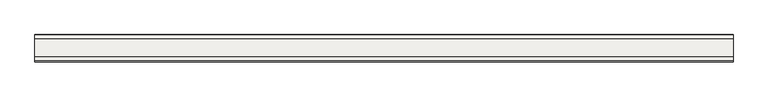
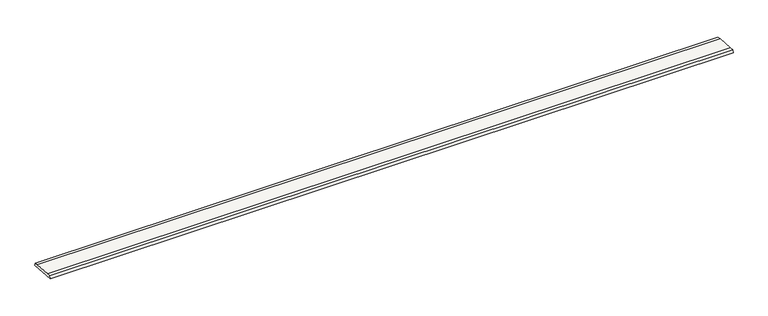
"""IFC4 building model written with IfcOpenShell, lengths in millimetres: slab geometry, ROSA GRES_245 FL : Rejilla 245 FL_Tresor_Java_Anti-Slip."""

from ifc_helpers import new_model, si_unit, point, frame, frame_2d, origin, place, context, project, spatial, polyline, circle_curve, trimmed, segment, composite_curve, outline, extrude, source, transform, mapped, element, save


def slab_b4f2f54f(model_context):
    return source(origin(), model_context, "Body", "SweptSolid", [
        extrude(outline(composite_curve([segment(trimmed(circle_curve(frame_2d((-528.960151, -476.9354905)), 721.556477), [point((-549.5004127, 244.3285715))], [point((-513.9321982, 244.464475))], False, "CARTESIAN"), True, "CONTINUOUS"), segment(polyline([(-513.9321982, 244.464475), (-350.5656678, 231.1671992)]), True, "CONTINUOUS"), segment(trimmed(circle_curve(frame_2d((-452.3998099, -483.1671462)), 721.556477), [point((-350.5656678, 231.1671992))], [point((-315.0453746, 225.1954084))], False, "CARTESIAN"), True, "CONTINUOUS"), segment(polyline([(-315.0453746, 225.1954084), (-310.0, 202.7411783), (-558.1409275, 222.9386957), (-549.5004127, 244.3285715)]), True, "CONTINUOUS")], self_intersect=False)), frame((0.0, 0.0, 0.0), z_axis=(1.0, 0.0, 0.0), x_axis=(0.0, 1.0, 0.0)), (0.0, 0.0, 1.0), 6305.0),
    ])


if __name__ == "__main__":
    model = new_model("IFC4")
    model_context = context("Model", 3, world=origin())
    ifc_project = project(units=[si_unit("LENGTHUNIT", "METRE", prefix="MILLI")], contexts=[model_context])
    site = spatial("IfcSite", under=ifc_project)
    building = spatial("IfcBuilding", under=site)
    placement = place(None, origin())
    slab_shape = slab_b4f2f54f(model_context)
    element("IfcSlab", 1, ObjectType="ROSA GRES_245 FL : Rejilla 245 FL_Tresor_Java_Anti-Slip", at=placement, inside=building, context=model_context, shape_type="MappedRepresentation", body=[
        mapped(slab_shape, transform((0.0, 0.0, 0.0), x_axis=(1.0, 0.0, 0.0), y_axis=(0.0, 1.0, 0.0), z_axis=(0.0, 0.0, 1.0))),
    ])
    save(model, "model.ifc")
